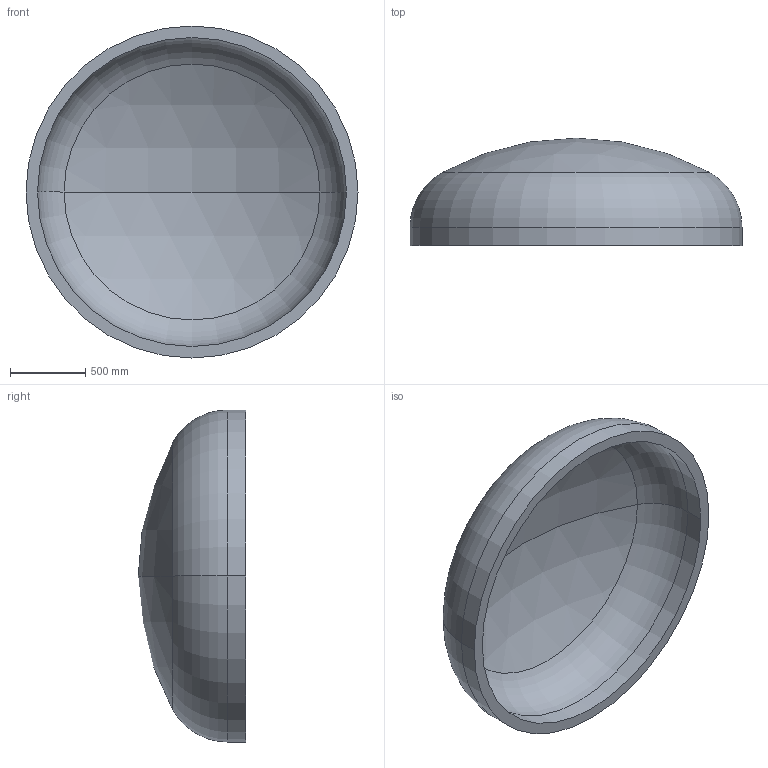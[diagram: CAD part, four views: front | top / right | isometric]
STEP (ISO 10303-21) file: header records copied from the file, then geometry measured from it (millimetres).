
FILE_DESCRIPTION (( 'STEP AP203' ), '1' );
FILE_NAME ('DIN 28013 Korbbogenform_-_Boden DIN 28013 - 2200 x 120 - I - s=76.step', '2016-07-01T14:47:31', ( '' ), ( '' ), 'SwSTEP 2.0', 'SolidWorks 2013', '' );
FILE_SCHEMA (( 'CONFIG_CONTROL_DESIGN' ));
Length unit declared in the file: millimetre
Products named in the file (1): DIN 28013 Korbbogenform_-_Boden DIN 28013 - 2200 x 120 - I - s=76
Bounding box: 2200 x 711.59 x 2200 mm (x, y, z)
Volume: 443660232.7 mm3; surface area: 12194491.5 mm2
Topology: 1 solids, 1 shells, 13 faces, 24 edges, 14 vertices
Faces by surface type: torus 4, cylinder 4, sphere 4, plane 1
Entity records: 407 total; most frequent: DIRECTION 72, CARTESIAN_POINT 52, ORIENTED_EDGE 48, AXIS2_PLACEMENT_3D 34, EDGE_CURVE 24, CIRCLE 20, EDGE_LOOP 14, VERTEX_POINT 14
